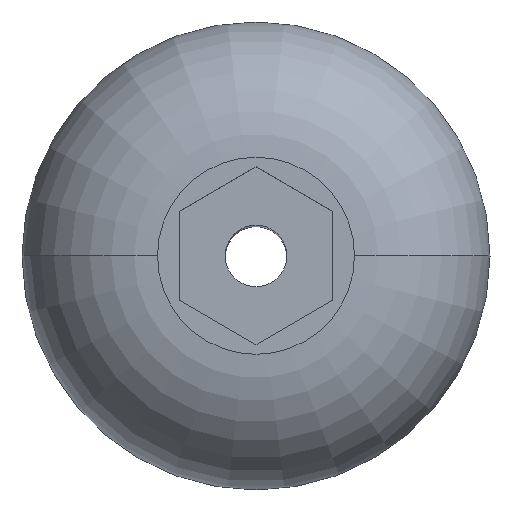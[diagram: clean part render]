
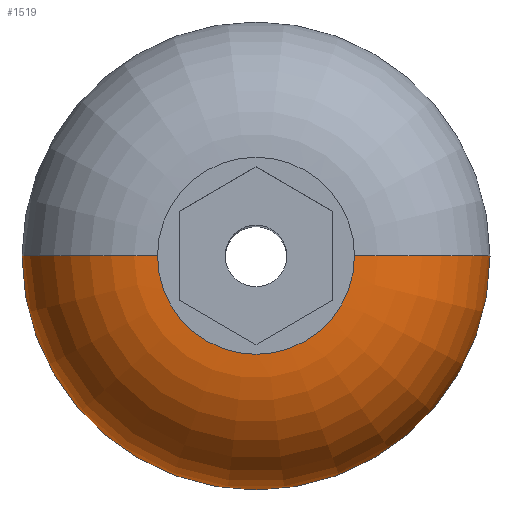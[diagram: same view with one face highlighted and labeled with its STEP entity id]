
A CAD part, top view. The second image highlights one B-rep face of the part: STEP entity #1519.
In plain terms, the highlighted toroidal (fillet/blend) face has major radius 1.6 mm and minor radius 2.2 mm.
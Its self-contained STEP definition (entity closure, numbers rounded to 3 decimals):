
#138 = CARTESIAN_POINT ( 'NONE',  ( 1.6, 0., 2.2 ) ) ;
#178 = EDGE_CURVE ( 'NONE', #2353, #1318, #192, .T. ) ;
#191 = DIRECTION ( 'NONE',  ( 1., 0., 0. ) ) ;
#192 = CIRCLE ( 'NONE', #877, 2.2 ) ;
#220 = AXIS2_PLACEMENT_3D ( 'NONE', #2120, #1790, #1149 ) ;
#276 = AXIS2_PLACEMENT_3D ( 'NONE', #1126, #1306, #2247 ) ;
#442 = AXIS2_PLACEMENT_3D ( 'NONE', #572, #958, #2268 ) ;
#446 = TOROIDAL_SURFACE ( 'NONE', #1351, 1.6, 2.2 ) ;
#473 = EDGE_CURVE ( 'NONE', #2353, #1858, #593, .T. ) ;
#572 = CARTESIAN_POINT ( 'NONE',  ( 0., 0., 0. ) ) ;
#592 = CIRCLE ( 'NONE', #220, 2.2 ) ;
#593 = CIRCLE ( 'NONE', #442, 3.8 ) ;
#620 = DIRECTION ( 'NONE',  ( 0., 1., 0. ) ) ;
#651 = DIRECTION ( 'NONE',  ( 0., 0., 1. ) ) ;
#816 = DIRECTION ( 'NONE',  ( -1., 0., 0. ) ) ;
#829 = CARTESIAN_POINT ( 'NONE',  ( 3.8, 0., 0. ) ) ;
#874 = EDGE_CURVE ( 'NONE', #1858, #1192, #592, .T. ) ;
#877 = AXIS2_PLACEMENT_3D ( 'NONE', #2201, #620, #816 ) ;
#958 = DIRECTION ( 'NONE',  ( 0., 0., 1. ) ) ;
#1098 = FACE_OUTER_BOUND ( 'NONE', #1116, .T. ) ;
#1116 = EDGE_LOOP ( 'NONE', ( #1963, #2219, #2123, #1488 ) ) ;
#1126 = CARTESIAN_POINT ( 'NONE',  ( 0., 0., 2.2 ) ) ;
#1149 = DIRECTION ( 'NONE',  ( 0., 0., -1. ) ) ;
#1192 = VERTEX_POINT ( 'NONE', #138 ) ;
#1306 = DIRECTION ( 'NONE',  ( 0., 0., 1. ) ) ;
#1318 = VERTEX_POINT ( 'NONE', #1876 ) ;
#1351 = AXIS2_PLACEMENT_3D ( 'NONE', #1613, #651, #191 ) ;
#1488 = ORIENTED_EDGE ( 'NONE', *, *, #2412, .F. ) ;
#1519 = ADVANCED_FACE ( 'NONE', ( #1098 ), #446, .T. ) ;
#1593 = CIRCLE ( 'NONE', #276, 1.6 ) ;
#1613 = CARTESIAN_POINT ( 'NONE',  ( 0., 0., 0. ) ) ;
#1626 = CARTESIAN_POINT ( 'NONE',  ( -3.8, 0., 0. ) ) ;
#1790 = DIRECTION ( 'NONE',  ( 0., -1., 0. ) ) ;
#1858 = VERTEX_POINT ( 'NONE', #829 ) ;
#1876 = CARTESIAN_POINT ( 'NONE',  ( -1.6, 0., 2.2 ) ) ;
#1963 = ORIENTED_EDGE ( 'NONE', *, *, #178, .F. ) ;
#2120 = CARTESIAN_POINT ( 'NONE',  ( 1.6, 0., 0. ) ) ;
#2123 = ORIENTED_EDGE ( 'NONE', *, *, #874, .T. ) ;
#2201 = CARTESIAN_POINT ( 'NONE',  ( -1.6, 0., 0. ) ) ;
#2219 = ORIENTED_EDGE ( 'NONE', *, *, #473, .T. ) ;
#2247 = DIRECTION ( 'NONE',  ( 1., 0., 0. ) ) ;
#2268 = DIRECTION ( 'NONE',  ( 1., 0., 0. ) ) ;
#2353 = VERTEX_POINT ( 'NONE', #1626 ) ;
#2412 = EDGE_CURVE ( 'NONE', #1318, #1192, #1593, .T. ) ;
